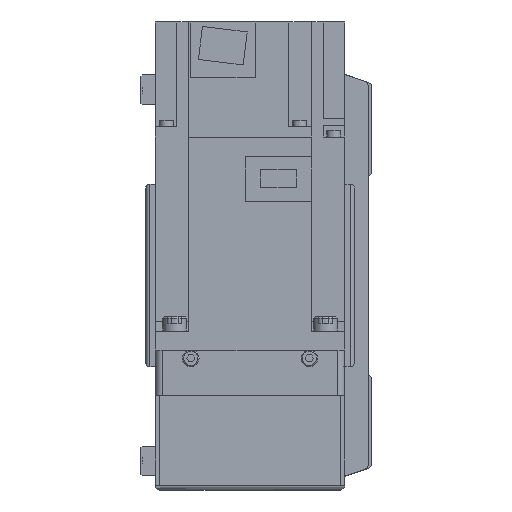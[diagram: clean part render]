
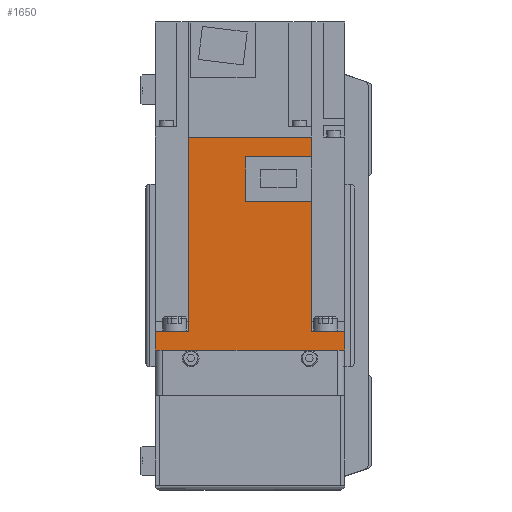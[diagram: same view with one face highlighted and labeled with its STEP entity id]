
A CAD part, left-side view. The second image highlights one B-rep face of the part: STEP entity #1650.
In plain terms, the highlighted planar face has unit normal (-1, 0, 0) as drawn and (1, 0, 0) by its records, which use the part's own axes.
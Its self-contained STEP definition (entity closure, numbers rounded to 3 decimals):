
#1650 = ADVANCED_FACE( '', ( #3995 ), #3996, .F. );
#3995 = FACE_OUTER_BOUND( '', #7241, .T. );
#3996 = PLANE( '', #7242 );
#7241 = EDGE_LOOP( '', ( #11938, #11939, #11940, #11941, #11942, #11943, #11944, #11945, #11946, #11947, #11948, #11949 ) );
#7242 = AXIS2_PLACEMENT_3D( '', #11950, #11951, #11952 );
#11938 = ORIENTED_EDGE( '', *, *, #19904, .F. );
#11939 = ORIENTED_EDGE( '', *, *, #19905, .F. );
#11940 = ORIENTED_EDGE( '', *, *, #19906, .F. );
#11941 = ORIENTED_EDGE( '', *, *, #19737, .T. );
#11942 = ORIENTED_EDGE( '', *, *, #19617, .F. );
#11943 = ORIENTED_EDGE( '', *, *, #19907, .T. );
#11944 = ORIENTED_EDGE( '', *, *, #18630, .T. );
#11945 = ORIENTED_EDGE( '', *, *, #19300, .F. );
#11946 = ORIENTED_EDGE( '', *, *, #19908, .F. );
#11947 = ORIENTED_EDGE( '', *, *, #19909, .F. );
#11948 = ORIENTED_EDGE( '', *, *, #19910, .F. );
#11949 = ORIENTED_EDGE( '', *, *, #19911, .F. );
#11950 = CARTESIAN_POINT( '', ( 40., 89.8, 40. ) );
#11951 = DIRECTION( '', ( -1., 0., 0. ) );
#11952 = DIRECTION( '', ( 0., 0., 1. ) );
#18630 = EDGE_CURVE( '', #22160, #22158, #22161, .T. );
#19300 = EDGE_CURVE( '', #23329, #22158, #23331, .T. );
#19617 = EDGE_CURVE( '', #23851, #23853, #23854, .T. );
#19737 = EDGE_CURVE( '', #24059, #23853, #24060, .T. );
#19904 = EDGE_CURVE( '', #24327, #24328, #24329, .T. );
#19905 = EDGE_CURVE( '', #24330, #24327, #24331, .T. );
#19906 = EDGE_CURVE( '', #24059, #24330, #24332, .T. );
#19907 = EDGE_CURVE( '', #23851, #22160, #24333, .T. );
#19908 = EDGE_CURVE( '', #24334, #23329, #24335, .T. );
#19909 = EDGE_CURVE( '', #24336, #24334, #24337, .T. );
#19910 = EDGE_CURVE( '', #24338, #24336, #24339, .T. );
#19911 = EDGE_CURVE( '', #24328, #24338, #24340, .T. );
#22158 = VERTEX_POINT( '', #27331 );
#22160 = VERTEX_POINT( '', #27334 );
#22161 = LINE( '', #27335, #27336 );
#23329 = VERTEX_POINT( '', #28998 );
#23331 = LINE( '', #29001, #29002 );
#23851 = VERTEX_POINT( '', #29784 );
#23853 = VERTEX_POINT( '', #29787 );
#23854 = LINE( '', #29788, #29789 );
#24059 = VERTEX_POINT( '', #30078 );
#24060 = LINE( '', #30079, #30080 );
#24327 = VERTEX_POINT( '', #30437 );
#24328 = VERTEX_POINT( '', #30438 );
#24329 = LINE( '', #30439, #30440 );
#24330 = VERTEX_POINT( '', #30441 );
#24331 = LINE( '', #30442, #30443 );
#24332 = LINE( '', #30444, #30445 );
#24333 = LINE( '', #30446, #30447 );
#24334 = VERTEX_POINT( '', #30448 );
#24335 = LINE( '', #30449, #30450 );
#24336 = VERTEX_POINT( '', #30451 );
#24337 = LINE( '', #30452, #30453 );
#24338 = VERTEX_POINT( '', #30454 );
#24339 = LINE( '', #30455, #30456 );
#24340 = LINE( '', #30457, #30458 );
#27331 = CARTESIAN_POINT( '', ( 40., 0., -40. ) );
#27334 = CARTESIAN_POINT( '', ( 40., 0., 40. ) );
#27335 = CARTESIAN_POINT( '', ( 40., 0., 40. ) );
#27336 = VECTOR( '', #34751, 1000. );
#28998 = CARTESIAN_POINT( '', ( 40., 8., -40. ) );
#29001 = CARTESIAN_POINT( '', ( 40., 89.8, -40. ) );
#29002 = VECTOR( '', #35627, 1000. );
#29784 = CARTESIAN_POINT( '', ( 40., 8., 40. ) );
#29787 = CARTESIAN_POINT( '', ( 40., 8., 25.95 ) );
#29788 = CARTESIAN_POINT( '', ( 40., 8., 40. ) );
#29789 = VECTOR( '', #36040, 1000. );
#30078 = CARTESIAN_POINT( '', ( 40., 89.8, 25.95 ) );
#30079 = CARTESIAN_POINT( '', ( 40., 158., 25.95 ) );
#30080 = VECTOR( '', #36192, 1000. );
#30437 = CARTESIAN_POINT( '', ( 40., 81.4, -25.95 ) );
#30438 = CARTESIAN_POINT( '', ( 40., 81.4, 1.8 ) );
#30439 = CARTESIAN_POINT( '', ( 40., 81.4, -26. ) );
#30440 = VECTOR( '', #36409, 1000. );
#30441 = CARTESIAN_POINT( '', ( 40., 89.8, -25.95 ) );
#30442 = CARTESIAN_POINT( '', ( 40., 158., -25.95 ) );
#30443 = VECTOR( '', #36410, 1000. );
#30444 = CARTESIAN_POINT( '', ( 40., 89.8, 40. ) );
#30445 = VECTOR( '', #36411, 1000. );
#30446 = CARTESIAN_POINT( '', ( 40., 89.8, 40. ) );
#30447 = VECTOR( '', #36412, 1000. );
#30448 = CARTESIAN_POINT( '', ( 40., 8., -25.95 ) );
#30449 = CARTESIAN_POINT( '', ( 40., 8., 40. ) );
#30450 = VECTOR( '', #36413, 1000. );
#30451 = CARTESIAN_POINT( '', ( 40., 62.8, -25.95 ) );
#30452 = CARTESIAN_POINT( '', ( 40., 158., -25.95 ) );
#30453 = VECTOR( '', #36414, 1000. );
#30454 = CARTESIAN_POINT( '', ( 40., 62.8, 1.8 ) );
#30455 = CARTESIAN_POINT( '', ( 40., 62.8, 1.8 ) );
#30456 = VECTOR( '', #36415, 1000. );
#30457 = CARTESIAN_POINT( '', ( 40., 81.4, 1.8 ) );
#30458 = VECTOR( '', #36416, 1000. );
#34751 = DIRECTION( '', ( 0., 0., -1. ) );
#35627 = DIRECTION( '', ( 0., -1., 0. ) );
#36040 = DIRECTION( '', ( 0., 0., -1. ) );
#36192 = DIRECTION( '', ( 0., -1., 0. ) );
#36409 = DIRECTION( '', ( 0., 0., 1. ) );
#36410 = DIRECTION( '', ( 0., -1., 0. ) );
#36411 = DIRECTION( '', ( 0., 0., -1. ) );
#36412 = DIRECTION( '', ( 0., -1., 0. ) );
#36413 = DIRECTION( '', ( 0., 0., -1. ) );
#36414 = DIRECTION( '', ( 0., -1., 0. ) );
#36415 = DIRECTION( '', ( 0., 0., -1. ) );
#36416 = DIRECTION( '', ( 0., -1., 0. ) );
